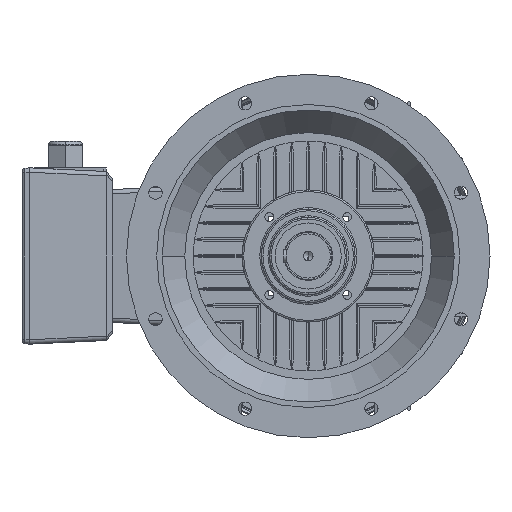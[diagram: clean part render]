
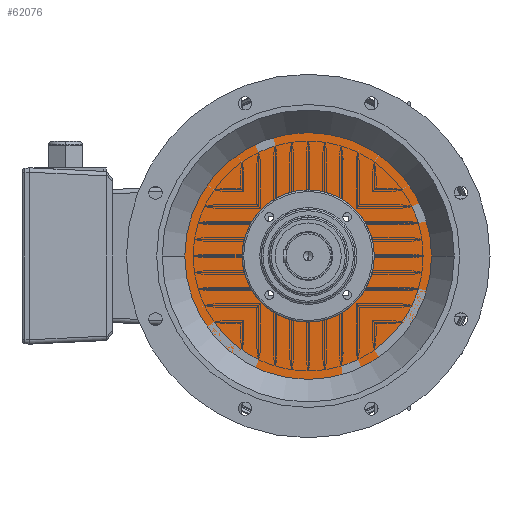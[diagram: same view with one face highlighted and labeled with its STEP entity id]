
A CAD part, left-side view. The second image highlights one B-rep face of the part: STEP entity #62076.
In plain terms, the highlighted planar face has unit normal (-1, 0, 0) as drawn and (0, 0, 1) by its records, which use the part's own axes.
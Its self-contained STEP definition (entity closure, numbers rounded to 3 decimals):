
#55106=CARTESIAN_POINT('',(0.,0.,425.));
#55107=DIRECTION('',(0.,0.,-1.));
#55108=DIRECTION('',(0.,1.,0.));
#55109=AXIS2_PLACEMENT_3D('',#55106,#55107,#55108);
#55111=CARTESIAN_POINT('',(0.,0.,425.));
#55112=DIRECTION('',(0.,0.,-1.));
#55113=DIRECTION('',(0.,-1.,0.));
#55114=AXIS2_PLACEMENT_3D('',#55111,#55112,#55113);
#55116=CARTESIAN_POINT('',(0.,0.,425.));
#55117=DIRECTION('',(0.,0.,1.));
#55118=DIRECTION('',(-1.,0.,0.));
#55119=AXIS2_PLACEMENT_3D('',#55116,#55117,#55118);
#55121=CARTESIAN_POINT('',(0.,0.,425.));
#55122=DIRECTION('',(0.,0.,1.));
#55123=DIRECTION('',(1.,0.,0.));
#55124=AXIS2_PLACEMENT_3D('',#55121,#55122,#55123);
#59101=CARTESIAN_POINT('',(-120.,0.,425.));
#59102=VERTEX_POINT('',#59101);
#59103=CARTESIAN_POINT('',(120.,0.,425.));
#59104=VERTEX_POINT('',#59103);
#59105=CARTESIAN_POINT('',(0.,224.034,425.));
#59106=CARTESIAN_POINT('',(0.,-224.034,425.));
#59107=VERTEX_POINT('',#59105);
#59108=VERTEX_POINT('',#59106);
#62061=CARTESIAN_POINT('',(-0.013,371.309,425.));
#62062=DIRECTION('',(0.,0.,-1.));
#62063=DIRECTION('',(-1.,0.,0.));
#62064=AXIS2_PLACEMENT_3D('',#62061,#62062,#62063);
#62065=PLANE('',#62064);
#62067=ORIENTED_EDGE('',*,*,#62066,.T.);
#62069=ORIENTED_EDGE('',*,*,#62068,.T.);
#62070=EDGE_LOOP('',(#62067,#62069));
#62071=FACE_OUTER_BOUND('',#62070,.F.);
#62072=ORIENTED_EDGE('',*,*,#62054,.T.);
#62073=ORIENTED_EDGE('',*,*,#62041,.T.);
#62074=EDGE_LOOP('',(#62072,#62073));
#62075=FACE_BOUND('',#62074,.F.);
#62076=ADVANCED_FACE('',(#62071,#62075),#62065,.F.);
#55110=CIRCLE('',#55109,224.034);
#55115=CIRCLE('',#55114,224.034);
#55120=CIRCLE('',#55119,120.);
#55125=CIRCLE('',#55124,120.);
#62041=EDGE_CURVE('',#59104,#59102,#55125,.T.);
#62054=EDGE_CURVE('',#59102,#59104,#55120,.T.);
#62066=EDGE_CURVE('',#59107,#59108,#55110,.T.);
#62068=EDGE_CURVE('',#59108,#59107,#55115,.T.);
